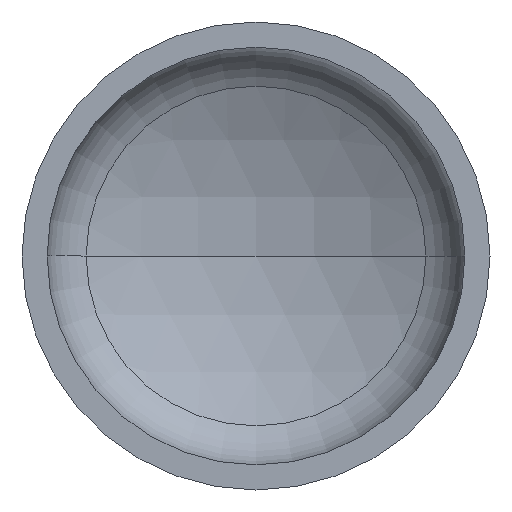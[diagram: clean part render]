
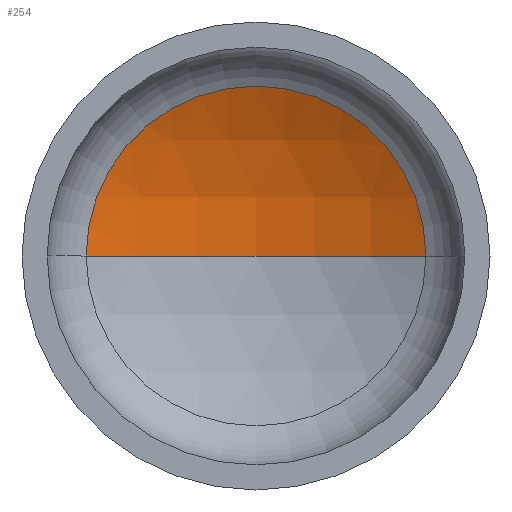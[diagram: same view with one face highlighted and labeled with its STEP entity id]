
A CAD part, front view. The second image highlights one B-rep face of the part: STEP entity #254.
In plain terms, the highlighted spherical face has radius 1520 mm.
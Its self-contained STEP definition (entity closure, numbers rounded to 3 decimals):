
#12 = EDGE_LOOP ( 'NONE', ( #197, #169, #130 ) ) ;
#26 = CARTESIAN_POINT ( 'NONE',  ( 0., 333.441, 0. ) ) ;
#27 = AXIS2_PLACEMENT_3D ( 'NONE', #54, #49, #201 ) ;
#40 = AXIS2_PLACEMENT_3D ( 'NONE', #274, #272, #295 ) ;
#41 = AXIS2_PLACEMENT_3D ( 'NONE', #253, #251, #250 ) ;
#43 = AXIS2_PLACEMENT_3D ( 'NONE', #26, #163, #79 ) ;
#49 = DIRECTION ( 'NONE',  ( 0., 0., -1. ) ) ;
#54 = CARTESIAN_POINT ( 'NONE',  ( 0., -1021.146, 0. ) ) ;
#79 = DIRECTION ( 'NONE',  ( 1., 0., 0. ) ) ;
#88 = CIRCLE ( 'NONE', #40, 1520. ) ;
#121 = VERTEX_POINT ( 'NONE', #318 ) ;
#130 = ORIENTED_EDGE ( 'NONE', *, *, #160, .T. ) ;
#149 = VERTEX_POINT ( 'NONE', #210 ) ;
#157 = VERTEX_POINT ( 'NONE', #359 ) ;
#160 = EDGE_CURVE ( 'NONE', #121, #157, #256, .T. ) ;
#163 = DIRECTION ( 'NONE',  ( 0., -1., 0. ) ) ;
#169 = ORIENTED_EDGE ( 'NONE', *, *, #193, .T. ) ;
#182 = CIRCLE ( 'NONE', #41, 1520. ) ;
#193 = EDGE_CURVE ( 'NONE', #149, #121, #88, .T. ) ;
#197 = ORIENTED_EDGE ( 'NONE', *, *, #203, .F. ) ;
#201 = DIRECTION ( 'NONE',  ( -1., 0., 0. ) ) ;
#203 = EDGE_CURVE ( 'NONE', #149, #157, #182, .T. ) ;
#210 = CARTESIAN_POINT ( 'NONE',  ( 0., 498.854, 0. ) ) ;
#250 = DIRECTION ( 'NONE',  ( 1., 0., 0. ) ) ;
#251 = DIRECTION ( 'NONE',  ( 0., 0., 1. ) ) ;
#253 = CARTESIAN_POINT ( 'NONE',  ( 0., -1021.146, 0. ) ) ;
#254 = ADVANCED_FACE ( 'NONE', ( #364 ), #369, .F. ) ;
#256 = CIRCLE ( 'NONE', #43, 689.561 ) ;
#272 = DIRECTION ( 'NONE',  ( 0., 0., -1. ) ) ;
#274 = CARTESIAN_POINT ( 'NONE',  ( 0., -1021.146, 0. ) ) ;
#295 = DIRECTION ( 'NONE',  ( -1., 0., 0. ) ) ;
#318 = CARTESIAN_POINT ( 'NONE',  ( 689.561, 333.441, 0. ) ) ;
#359 = CARTESIAN_POINT ( 'NONE',  ( -689.561, 333.441, 0. ) ) ;
#364 = FACE_OUTER_BOUND ( 'NONE', #12, .T. ) ;
#369 = SPHERICAL_SURFACE ( 'NONE', #27, 1520. ) ;
